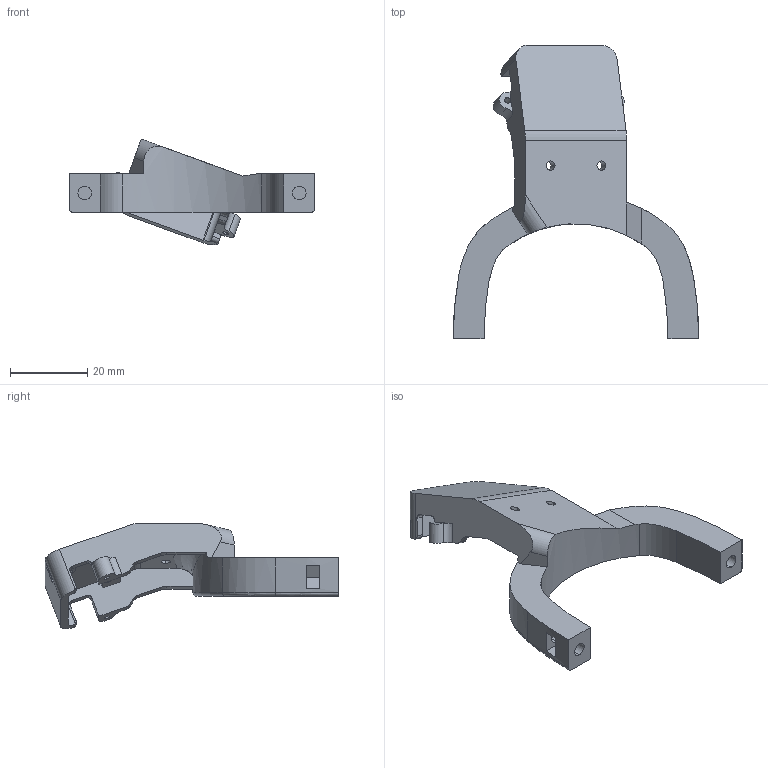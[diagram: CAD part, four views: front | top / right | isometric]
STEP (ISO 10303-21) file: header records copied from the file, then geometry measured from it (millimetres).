
FILE_DESCRIPTION (( 'STEP AP203' ), '1' );
FILE_NAME ('G1手腕相机支架-上装-右.STEP', '2025-08-21T06:32:52', ( '' ), ( '' ), 'SwSTEP 2.0', 'SolidWorks 2023', '' );
FILE_SCHEMA (( 'CONFIG_CONTROL_DESIGN' ));
Length unit declared in the file: millimetre
Products named in the file (1): G1手腕相机支架-上装-右
Bounding box: 63.73 x 76.3 x 27.43 mm (x, y, z)
Volume: 13652.6 mm3; surface area: 8566.8 mm2
Topology: 1 solids, 1 shells, 147 faces, 400 edges, 265 vertices
Faces by surface type: plane 74, cylinder 55, bspline 17, torus 1
Entity records: 5874 total; most frequent: CARTESIAN_POINT 2119, ORIENTED_EDGE 800, DIRECTION 718, EDGE_CURVE 400, VERTEX_POINT 265, AXIS2_PLACEMENT_3D 244, LINE 230, VECTOR 230
